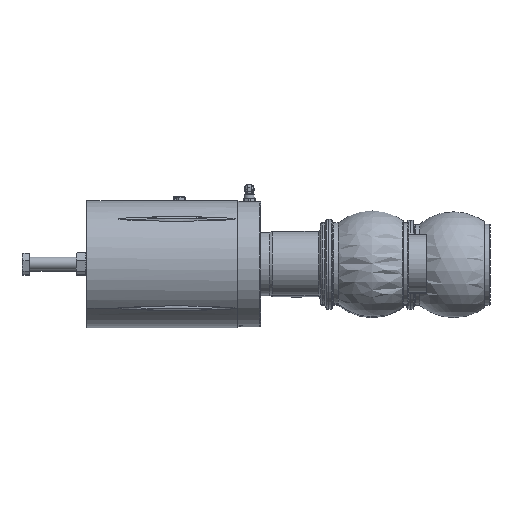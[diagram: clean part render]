
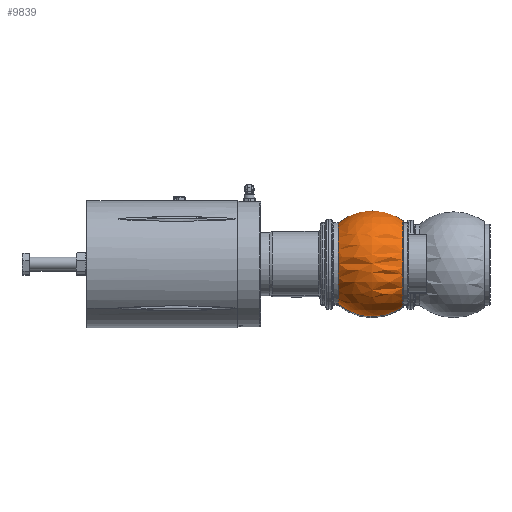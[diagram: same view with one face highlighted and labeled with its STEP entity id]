
A CAD part, left-side view. The second image highlights one B-rep face of the part: STEP entity #9839.
In plain terms, the highlighted spherical face has radius 58.5 mm.
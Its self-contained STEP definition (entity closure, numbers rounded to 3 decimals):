
#410=SPHERICAL_SURFACE('',#10757,58.5);
#606=FACE_BOUND('',#3107,.T.);
#607=FACE_BOUND('',#3108,.T.);
#2492=FACE_OUTER_BOUND('',#3106,.T.);
#3106=EDGE_LOOP('',(#6755,#6756));
#3107=EDGE_LOOP('',(#6757));
#3108=EDGE_LOOP('',(#6758,#6759));
#3808=CIRCLE('',#10752,36.77);
#3811=CIRCLE('',#10758,58.5);
#3812=CIRCLE('',#10759,45.);
#3813=CIRCLE('',#10760,47.691);
#4394=VERTEX_POINT('',#15057);
#4395=VERTEX_POINT('',#15064);
#4398=VERTEX_POINT('',#15080);
#4399=VERTEX_POINT('',#15081);
#4400=VERTEX_POINT('',#15083);
#5311=EDGE_CURVE('',#4395,#4394,#3808,.T.);
#5316=EDGE_CURVE('',#4398,#4399,#3811,.T.);
#5317=EDGE_CURVE('',#4400,#4400,#3812,.T.);
#5318=EDGE_CURVE('',#4394,#4395,#3813,.T.);
#6755=ORIENTED_EDGE('',*,*,#5316,.T.);
#6756=ORIENTED_EDGE('',*,*,#5316,.F.);
#6757=ORIENTED_EDGE('',*,*,#5317,.F.);
#6758=ORIENTED_EDGE('',*,*,#5311,.T.);
#6759=ORIENTED_EDGE('',*,*,#5318,.T.);
#9839=ADVANCED_FACE('',(#2492,#606,#607),#410,.T.);
#10752=AXIS2_PLACEMENT_3D('',#15065,#12020,#12021);
#10757=AXIS2_PLACEMENT_3D('',#15079,#12031,#12032);
#10758=AXIS2_PLACEMENT_3D('',#15082,#12033,#12034);
#10759=AXIS2_PLACEMENT_3D('',#15084,#12035,#12036);
#10760=AXIS2_PLACEMENT_3D('',#15085,#12037,#12038);
#12020=DIRECTION('center_axis',(-1.,0.,0.));
#12021=DIRECTION('ref_axis',(0.,0.,-1.));
#12031=DIRECTION('center_axis',(0.,0.,1.));
#12032=DIRECTION('ref_axis',(1.,0.,0.));
#12033=DIRECTION('center_axis',(0.,-1.,0.));
#12034=DIRECTION('ref_axis',(-1.,0.,0.));
#12035=DIRECTION('center_axis',(0.,1.,0.));
#12036=DIRECTION('ref_axis',(1.,0.,0.));
#12037=DIRECTION('center_axis',(0.,1.,0.));
#12038=DIRECTION('ref_axis',(1.,0.,0.));
#15057=CARTESIAN_POINT('',(45.5,26.421,-14.29));
#15064=CARTESIAN_POINT('',(45.5,26.421,14.29));
#15065=CARTESIAN_POINT('Origin',(45.5,60.3,0.));
#15079=CARTESIAN_POINT('Origin',(0.,60.3,0.));
#15080=CARTESIAN_POINT('',(0.,60.3,58.5));
#15081=CARTESIAN_POINT('',(0.,60.3,-58.5));
#15082=CARTESIAN_POINT('Origin',(0.,60.3,0.));
#15083=CARTESIAN_POINT('',(45.,97.68,0.));
#15084=CARTESIAN_POINT('Origin',(0.,97.68,0.));
#15085=CARTESIAN_POINT('Origin',(0.,26.421,0.));
